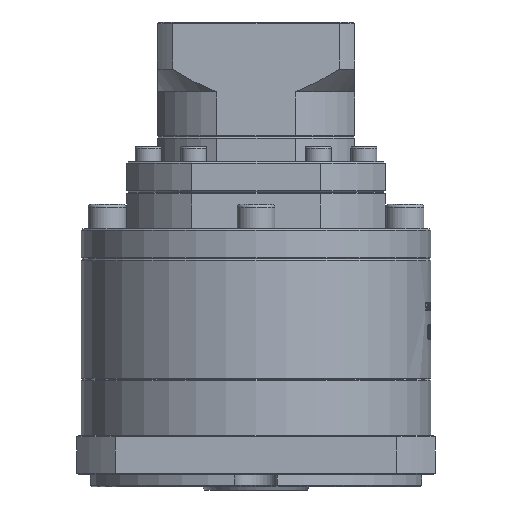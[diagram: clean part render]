
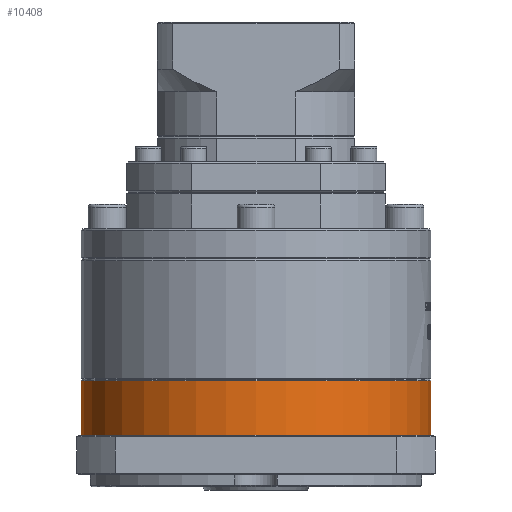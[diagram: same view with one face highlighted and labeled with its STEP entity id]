
A CAD part, front view. The second image highlights one B-rep face of the part: STEP entity #10408.
In plain terms, the highlighted cylindrical face has radius 57.5 mm (diameter 115 mm), a partial arc.
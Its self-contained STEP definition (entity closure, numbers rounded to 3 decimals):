
#740 = ORIENTED_EDGE ( 'NONE', *, *, #3907, .T. ) ;
#3907 = EDGE_CURVE ( 'NONE', #56631, #78909, #10004, .T. ) ;
#5314 = CARTESIAN_POINT ( 'NONE',  ( -54.6, 42.005, -127.06 ) ) ;
#5425 = DIRECTION ( 'NONE',  ( -1., 0., 0. ) ) ;
#6226 = VERTEX_POINT ( 'NONE', #87592 ) ;
#9451 = VECTOR ( 'NONE', #83490, 1000. ) ;
#10004 = CIRCLE ( 'NONE', #29337, 57.5 ) ;
#10408 = ADVANCED_FACE ( 'NONE', ( #60591 ), #72472, .T. ) ;
#13007 = EDGE_LOOP ( 'NONE', ( #104186, #740, #26918, #46944 ) ) ;
#17369 = CIRCLE ( 'NONE', #18992, 57.5 ) ;
#18992 = AXIS2_PLACEMENT_3D ( 'NONE', #106933, #56184, #5425 ) ;
#26918 = ORIENTED_EDGE ( 'NONE', *, *, #63460, .T. ) ;
#27235 = DIRECTION ( 'NONE',  ( 0., 0., 1. ) ) ;
#29337 = AXIS2_PLACEMENT_3D ( 'NONE', #41929, #101225, #50513 ) ;
#38655 = CARTESIAN_POINT ( 'NONE',  ( -112.1, 42.005, -127.06 ) ) ;
#38688 = LINE ( 'NONE', #43567, #81141 ) ;
#41929 = CARTESIAN_POINT ( 'NONE',  ( -54.6, 42.005, -127.06 ) ) ;
#43567 = CARTESIAN_POINT ( 'NONE',  ( 2.9, 42.005, -127.06 ) ) ;
#46944 = ORIENTED_EDGE ( 'NONE', *, *, #93368, .F. ) ;
#50513 = DIRECTION ( 'NONE',  ( 1., 0., 0. ) ) ;
#54363 = AXIS2_PLACEMENT_3D ( 'NONE', #5314, #64516, #98641 ) ;
#56184 = DIRECTION ( 'NONE',  ( 0., 0., 1. ) ) ;
#56631 = VERTEX_POINT ( 'NONE', #38655 ) ;
#59077 = CARTESIAN_POINT ( 'NONE',  ( -112.1, 42.005, -127.06 ) ) ;
#60591 = FACE_OUTER_BOUND ( 'NONE', #13007, .T. ) ;
#63460 = EDGE_CURVE ( 'NONE', #78909, #94886, #38688, .T. ) ;
#64516 = DIRECTION ( 'NONE',  ( 0., 0., 1. ) ) ;
#72472 = CYLINDRICAL_SURFACE ( 'NONE', #54363, 57.5 ) ;
#74390 = LINE ( 'NONE', #59077, #9451 ) ;
#74997 = EDGE_CURVE ( 'NONE', #56631, #6226, #74390, .T. ) ;
#78909 = VERTEX_POINT ( 'NONE', #85135 ) ;
#81141 = VECTOR ( 'NONE', #27235, 1000. ) ;
#83490 = DIRECTION ( 'NONE',  ( 0., 0., 1. ) ) ;
#85135 = CARTESIAN_POINT ( 'NONE',  ( 2.9, 42.005, -127.06 ) ) ;
#87592 = CARTESIAN_POINT ( 'NONE',  ( -112.1, 42.005, -109.06 ) ) ;
#93368 = EDGE_CURVE ( 'NONE', #6226, #94886, #17369, .T. ) ;
#94886 = VERTEX_POINT ( 'NONE', #100594 ) ;
#98641 = DIRECTION ( 'NONE',  ( 1., 0., 0. ) ) ;
#100594 = CARTESIAN_POINT ( 'NONE',  ( 2.9, 42.005, -109.06 ) ) ;
#101225 = DIRECTION ( 'NONE',  ( 0., 0., 1. ) ) ;
#104186 = ORIENTED_EDGE ( 'NONE', *, *, #74997, .F. ) ;
#106933 = CARTESIAN_POINT ( 'NONE',  ( -54.6, 42.005, -109.06 ) ) ;
